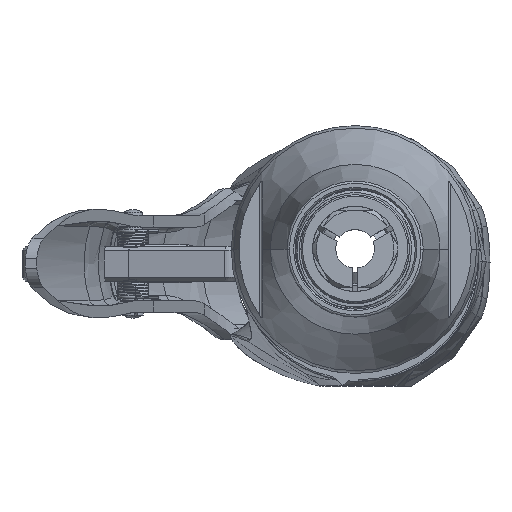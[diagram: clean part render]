
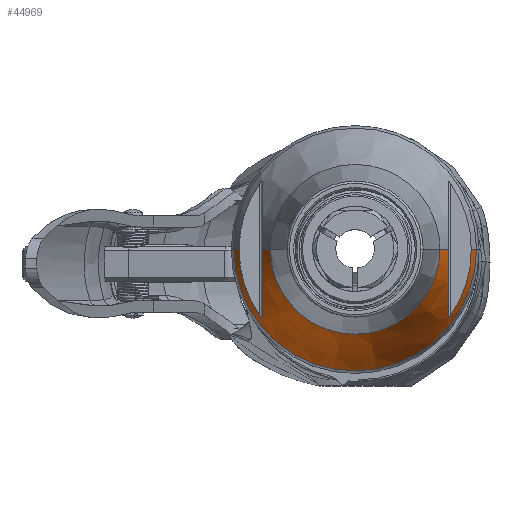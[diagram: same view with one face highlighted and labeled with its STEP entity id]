
A CAD part, top view. The second image highlights one B-rep face of the part: STEP entity #44969.
In plain terms, the highlighted conical face has half-angle 21 degrees and reference radius 13.314 mm.
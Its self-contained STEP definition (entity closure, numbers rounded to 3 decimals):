
#44149=CARTESIAN_POINT('',(0.,1.25,60.85));
#44150=DIRECTION('',(0.,0.,-1.));
#44151=DIRECTION('',(-0.821,-0.572,0.));
#44152=AXIS2_PLACEMENT_3D('',#44149,#44150,#44151);
#44182=CARTESIAN_POINT('',(-12.,1.25,68.641));
#44183=CARTESIAN_POINT('',(-12.,1.097,68.641));
#44184=CARTESIAN_POINT('',(-12.,0.788,68.626));
#44185=CARTESIAN_POINT('',(-12.,0.323,68.556));
#44186=CARTESIAN_POINT('',(-12.,-0.151,68.437));
#44187=CARTESIAN_POINT('',(-12.,-0.638,68.265));
#44188=CARTESIAN_POINT('',(-12.,-1.142,68.035));
#44189=CARTESIAN_POINT('',(-12.,-1.669,67.739));
#44190=CARTESIAN_POINT('',(-12.,-2.226,67.366));
#44191=CARTESIAN_POINT('',(-12.,-2.82,66.904));
#44192=CARTESIAN_POINT('',(-12.,-3.456,66.336));
#44193=CARTESIAN_POINT('',(-12.,-4.147,65.639));
#44194=CARTESIAN_POINT('',(-12.,-4.896,64.795));
#44195=CARTESIAN_POINT('',(-12.,-5.705,63.787));
#44196=CARTESIAN_POINT('',(-12.,-6.58,62.592));
#44197=CARTESIAN_POINT('',(-12.,-7.214,61.654));
#44198=CARTESIAN_POINT('',(-12.,-7.541,61.15));
#44200=CARTESIAN_POINT('',(-12.3,-7.319,60.85));
#44201=CARTESIAN_POINT('',(-12.283,-7.343,60.85));
#44202=CARTESIAN_POINT('',(-12.251,-7.388,
60.853));
#44203=CARTESIAN_POINT('',(-12.205,-7.444,
60.864));
#44204=CARTESIAN_POINT('',(-12.163,-7.492,
60.882));
#44205=CARTESIAN_POINT('',(-12.124,-7.53,
60.905));
#44206=CARTESIAN_POINT('',(-12.091,-7.557,
60.933));
#44207=CARTESIAN_POINT('',(-12.063,-7.575,
60.964));
#44208=CARTESIAN_POINT('',(-12.041,-7.584,
60.997));
#44209=CARTESIAN_POINT('',(-12.023,-7.586,
61.032));
#44210=CARTESIAN_POINT('',(-12.01,-7.58,
61.068));
#44211=CARTESIAN_POINT('',(-12.002,-7.566,
61.108));
#44212=CARTESIAN_POINT('',(-12.,-7.55,61.136));
#44213=CARTESIAN_POINT('',(-12.,-7.541,61.15));
#44215=DIRECTION('',(0.358,0.,0.934));
#44216=VECTOR('',#44215,2.902);
#44217=CARTESIAN_POINT('',(-12.,1.25,68.641));
#44218=LINE('',#44217,#44216);
#44219=DIRECTION('',(0.358,0.,-0.934));
#44220=VECTOR('',#44219,2.902);
#44221=CARTESIAN_POINT('',(10.96,1.25,71.35));
#44222=LINE('',#44221,#44220);
#44223=CARTESIAN_POINT('',(12.,1.25,68.641));
#44224=CARTESIAN_POINT('',(12.,1.097,68.641));
#44225=CARTESIAN_POINT('',(12.,0.789,68.626));
#44226=CARTESIAN_POINT('',(12.,0.326,68.556));
#44227=CARTESIAN_POINT('',(12.,-0.148,68.438));
#44228=CARTESIAN_POINT('',(12.,-0.633,68.267));
#44229=CARTESIAN_POINT('',(12.,-1.137,68.037));
#44230=CARTESIAN_POINT('',(12.,-1.664,67.742));
#44231=CARTESIAN_POINT('',(12.,-2.221,67.37));
#44232=CARTESIAN_POINT('',(12.,-2.815,66.908));
#44233=CARTESIAN_POINT('',(12.,-3.453,66.339));
#44234=CARTESIAN_POINT('',(12.,-4.146,65.64));
#44235=CARTESIAN_POINT('',(12.,-4.895,64.796));
#44236=CARTESIAN_POINT('',(12.,-5.705,63.787));
#44237=CARTESIAN_POINT('',(12.,-6.58,62.592));
#44238=CARTESIAN_POINT('',(12.,-7.214,61.654));
#44239=CARTESIAN_POINT('',(12.,-7.541,61.15));
#44241=DIRECTION('',(0.358,0.,-0.934));
#44242=VECTOR('',#44241,1.89);
#44243=CARTESIAN_POINT('',(14.991,1.25,60.85));
#44244=LINE('',#44243,#44242);
#44245=DIRECTION('',(0.358,0.,0.934));
#44246=VECTOR('',#44245,1.89);
#44247=CARTESIAN_POINT('',(-15.668,1.25,59.086));
#44248=LINE('',#44247,#44246);
#44249=CARTESIAN_POINT('',(0.,1.25,71.35));
#44250=DIRECTION('',(0.,0.,-1.));
#44251=DIRECTION('',(1.,0.,0.));
#44252=AXIS2_PLACEMENT_3D('',#44249,#44250,#44251);
#44580=CARTESIAN_POINT('',(12.3,-7.319,60.85));
#44581=CARTESIAN_POINT('',(12.283,-7.343,60.85));
#44582=CARTESIAN_POINT('',(12.251,-7.388,
60.853));
#44583=CARTESIAN_POINT('',(12.205,-7.445,
60.864));
#44584=CARTESIAN_POINT('',(12.163,-7.492,
60.882));
#44585=CARTESIAN_POINT('',(12.124,-7.53,
60.905));
#44586=CARTESIAN_POINT('',(12.091,-7.557,
60.933));
#44587=CARTESIAN_POINT('',(12.063,-7.575,
60.964));
#44588=CARTESIAN_POINT('',(12.041,-7.584,
60.997));
#44589=CARTESIAN_POINT('',(12.023,-7.586,
61.032));
#44590=CARTESIAN_POINT('',(12.01,-7.58,
61.069));
#44591=CARTESIAN_POINT('',(12.002,-7.566,
61.108));
#44592=CARTESIAN_POINT('',(12.,-7.55,61.136));
#44593=CARTESIAN_POINT('',(12.,-7.541,61.15));
#44604=CARTESIAN_POINT('',(0.,1.25,60.85));
#44605=DIRECTION('',(0.,0.,-1.));
#44606=DIRECTION('',(1.,0.,0.));
#44607=AXIS2_PLACEMENT_3D('',#44604,#44605,#44606);
#44609=CARTESIAN_POINT('',(0.,1.25,59.086));
#44610=DIRECTION('',(0.,0.,1.));
#44611=DIRECTION('',(-1.,0.,0.));
#44612=AXIS2_PLACEMENT_3D('',#44609,#44610,#44611);
#44641=CARTESIAN_POINT('',(-15.668,1.25,59.086));
#44642=CARTESIAN_POINT('',(15.668,1.25,59.086));
#44643=VERTEX_POINT('',#44641);
#44644=VERTEX_POINT('',#44642);
#44645=CARTESIAN_POINT('',(-14.991,1.25,60.85));
#44646=VERTEX_POINT('',#44645);
#44647=CARTESIAN_POINT('',(-10.96,1.25,71.35));
#44648=CARTESIAN_POINT('',(10.96,1.25,71.35));
#44649=VERTEX_POINT('',#44647);
#44650=VERTEX_POINT('',#44648);
#44651=CARTESIAN_POINT('',(-12.,1.25,68.641));
#44652=VERTEX_POINT('',#44651);
#44655=CARTESIAN_POINT('',(-12.3,-7.319,60.85));
#44656=VERTEX_POINT('',#44655);
#44657=CARTESIAN_POINT('',(-12.,-7.541,61.15));
#44658=VERTEX_POINT('',#44657);
#44659=CARTESIAN_POINT('',(12.,1.25,68.641));
#44660=VERTEX_POINT('',#44659);
#44661=VERTEX_POINT('',#44239);
#44662=VERTEX_POINT('',#44580);
#44663=CARTESIAN_POINT('',(14.991,1.25,60.85));
#44664=VERTEX_POINT('',#44663);
#44945=CARTESIAN_POINT('',(0.,1.25,65.218));
#44946=DIRECTION('',(0.,0.,-1.));
#44947=DIRECTION('',(1.,0.,0.));
#44948=AXIS2_PLACEMENT_3D('',#44945,#44946,#44947);
#44949=CONICAL_SURFACE('',#44948,13.314,21.);
#44950=ORIENTED_EDGE('',*,*,#44892,.F.);
#44951=ORIENTED_EDGE('',*,*,#44914,.T.);
#44952=ORIENTED_EDGE('',*,*,#44933,.F.);
#44953=ORIENTED_EDGE('',*,*,#44869,.T.);
#44955=ORIENTED_EDGE('',*,*,#44954,.F.);
#44956=ORIENTED_EDGE('',*,*,#44865,.T.);
#44958=ORIENTED_EDGE('',*,*,#44957,.T.);
#44960=ORIENTED_EDGE('',*,*,#44959,.F.);
#44962=ORIENTED_EDGE('',*,*,#44961,.F.);
#44963=ORIENTED_EDGE('',*,*,#44857,.T.);
#44965=ORIENTED_EDGE('',*,*,#44964,.F.);
#44966=ORIENTED_EDGE('',*,*,#44854,.T.);
#44967=EDGE_LOOP('',(#44950,#44951,#44952,#44953,#44955,#44956,#44958,#44960,
#44962,#44963,#44965,#44966));
#44968=FACE_OUTER_BOUND('',#44967,.F.);
#44153=CIRCLE('',#44152,14.991);
#44199=B_SPLINE_CURVE_WITH_KNOTS('',3,(#44182,#44183,#44184,#44185,#44186,
#44187,#44188,#44189,#44190,#44191,#44192,#44193,#44194,#44195,#44196,#44197,
#44198),.UNSPECIFIED.,.F.,.F.,(4,1,1,1,1,1,1,1,1,1,1,1,1,1,4),(0.,
0.071,0.143,0.214,0.286,
0.357,0.429,0.5,0.571,0.643,
0.714,0.786,0.857,0.929,1.),
.UNSPECIFIED.);
#44214=B_SPLINE_CURVE_WITH_KNOTS('',3,(#44200,#44201,#44202,#44203,#44204,
#44205,#44206,#44207,#44208,#44209,#44210,#44211,#44212,#44213),.UNSPECIFIED.,
.F.,.F.,(4,1,1,1,1,1,1,1,1,1,1,4),(0.,0.091,0.182,
0.273,0.364,0.455,0.545,
0.636,0.727,0.818,0.909,1.),
.UNSPECIFIED.);
#44240=B_SPLINE_CURVE_WITH_KNOTS('',3,(#44223,#44224,#44225,#44226,#44227,
#44228,#44229,#44230,#44231,#44232,#44233,#44234,#44235,#44236,#44237,#44238,
#44239),.UNSPECIFIED.,.F.,.F.,(4,1,1,1,1,1,1,1,1,1,1,1,1,1,4),(0.,
0.071,0.143,0.214,0.286,
0.357,0.429,0.5,0.571,0.643,
0.714,0.786,0.857,0.929,1.),
.UNSPECIFIED.);
#44253=CIRCLE('',#44252,10.96);
#44594=B_SPLINE_CURVE_WITH_KNOTS('',3,(#44580,#44581,#44582,#44583,#44584,
#44585,#44586,#44587,#44588,#44589,#44590,#44591,#44592,#44593),.UNSPECIFIED.,
.F.,.F.,(4,1,1,1,1,1,1,1,1,1,1,4),(0.,0.091,0.182,
0.273,0.364,0.455,0.545,
0.636,0.727,0.818,0.909,1.),
.UNSPECIFIED.);
#44608=CIRCLE('',#44607,14.991);
#44613=CIRCLE('',#44612,15.668);
#44854=EDGE_CURVE('',#44643,#44646,#44248,.T.);
#44857=EDGE_CURVE('',#44664,#44644,#44244,.T.);
#44865=EDGE_CURVE('',#44650,#44660,#44222,.T.);
#44869=EDGE_CURVE('',#44652,#44649,#44218,.T.);
#44892=EDGE_CURVE('',#44656,#44646,#44153,.T.);
#44914=EDGE_CURVE('',#44656,#44658,#44214,.T.);
#44933=EDGE_CURVE('',#44652,#44658,#44199,.T.);
#44954=EDGE_CURVE('',#44650,#44649,#44253,.T.);
#44957=EDGE_CURVE('',#44660,#44661,#44240,.T.);
#44959=EDGE_CURVE('',#44662,#44661,#44594,.T.);
#44961=EDGE_CURVE('',#44664,#44662,#44608,.T.);
#44964=EDGE_CURVE('',#44643,#44644,#44613,.T.);
#44969=ADVANCED_FACE('',(#44968),#44949,.T.);
